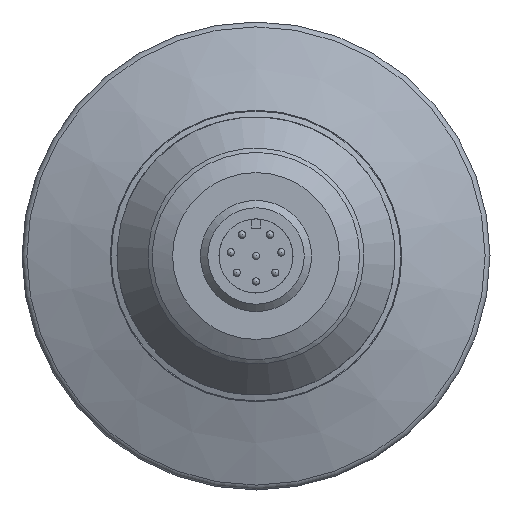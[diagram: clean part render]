
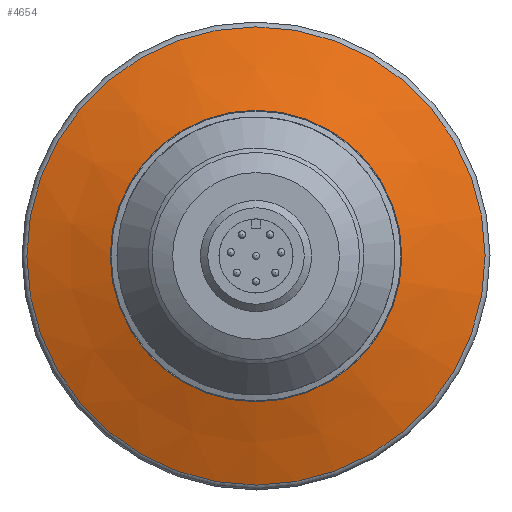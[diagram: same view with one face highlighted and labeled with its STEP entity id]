
A CAD part, front view. The second image highlights one B-rep face of the part: STEP entity #4654.
In plain terms, the highlighted conical face has half-angle 70 degrees and reference radius 24.724 mm.
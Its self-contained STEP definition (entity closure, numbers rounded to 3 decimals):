
#1434=ORIENTED_EDGE('',*,*,#1971,.T.);
#1435=ORIENTED_EDGE('',*,*,#1975,.F.);
#1971=EDGE_CURVE('',#2309,#2309,#2415,.T.);
#1975=EDGE_CURVE('',#2313,#2313,#2419,.T.);
#2309=VERTEX_POINT('',#10162);
#2313=VERTEX_POINT('',#10173);
#2415=CIRCLE('',#4836,15.732);
#2419=CIRCLE('',#4843,24.724);
#2670=EDGE_LOOP('',(#1434));
#2671=EDGE_LOOP('',(#1435));
#2942=FACE_BOUND('',#2670,.T.);
#2943=FACE_BOUND('',#2671,.T.);
#3017=CONICAL_SURFACE('',#4845,24.724,1.222);
#4654=ADVANCED_FACE('',(#2942,#2943),#3017,.T.);
#4836=AXIS2_PLACEMENT_3D('',#10161,#5309,#5310);
#4843=AXIS2_PLACEMENT_3D('',#10172,#5323,#5324);
#4845=AXIS2_PLACEMENT_3D('',#10176,#5327,#5328);
#5309=DIRECTION('',(0.,1.,0.));
#5310=DIRECTION('',(0.,0.,1.));
#5323=DIRECTION('',(0.,1.,0.));
#5324=DIRECTION('',(0.343,0.,-0.939));
#5327=DIRECTION('',(0.,1.,0.));
#5328=DIRECTION('',(0.343,0.,-0.939));
#10161=CARTESIAN_POINT('',(0.,-1.369,0.));
#10162=CARTESIAN_POINT('',(0.,-1.369,15.732));
#10172=CARTESIAN_POINT('',(0.,1.903,0.));
#10173=CARTESIAN_POINT('',(8.475,1.903,-23.226));
#10176=CARTESIAN_POINT('',(0.,1.903,0.));
